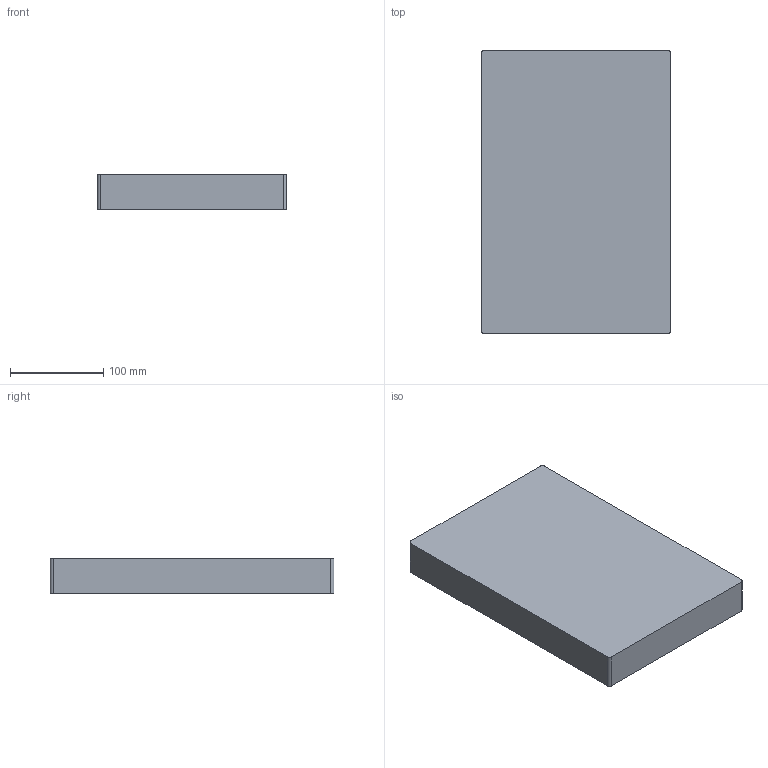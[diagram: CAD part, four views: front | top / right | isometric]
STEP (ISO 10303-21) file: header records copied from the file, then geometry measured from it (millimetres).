
FILE_DESCRIPTION(/* description */ (''),/* implementation_level */ '2;1');
FILE_NAME(/* name */ 'C:/Users/CAMStation2/Dropbox/Distributable/PPS/PPS 8x12 Pallet Distributable.step',/* time_stamp */ '2022-10-26T12:45:36-07:00',/* author */ (''),/* organization */ (''),/* preprocessor_version */ 'ST-DEVELOPER v19',/* originating_system */ 'Autodesk Translation Framework v11.7.0.108',/* authorisation */ '');
FILE_SCHEMA (('AUTOMOTIVE_DESIGN { 1 0 10303 214 3 1 1 }'));
Length unit declared in the file: inch
Products named in the file (1): (Unsaved)
Bounding box: 203.2 x 304.8 x 38.1 mm (x, y, z)
Volume: 2300148.6 mm3; surface area: 168878.5 mm2
Topology: 1 solids, 1 shells, 42 faces, 90 edges, 60 vertices
Faces by surface type: plane 24, cylinder 18
Full cylindrical faces by diameter (mm): 22.258 x2, 30.48 x2, 49.212 x2
Entity records: 1192 total; most frequent: DIRECTION 212, CARTESIAN_POINT 193, ORIENTED_EDGE 180, EDGE_CURVE 90, AXIS2_PLACEMENT_3D 79, VERTEX_POINT 60, LINE 54, VECTOR 54
